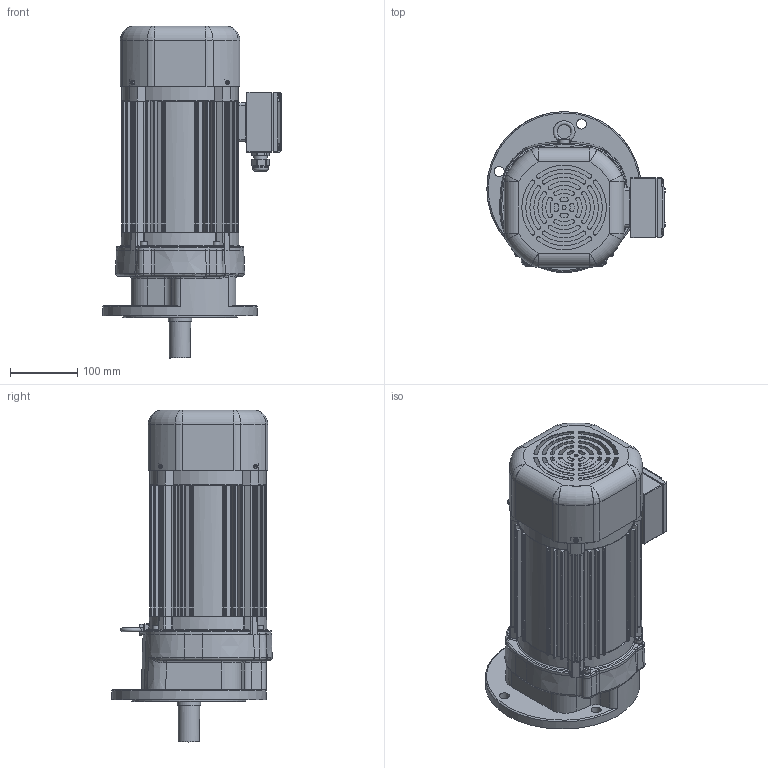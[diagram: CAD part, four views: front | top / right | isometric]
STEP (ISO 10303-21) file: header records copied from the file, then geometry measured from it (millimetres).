
FILE_DESCRIPTION(/* description */ (''),/* implementation_level */ '2;1');
FILE_NAME(/* name */ 'Z:\동력 3D 파일\PMK135_1.5kW_Brake_3D.stp',/* time_stamp */ '2021-11-30T17:46:45+09:00',/* author */ ('jaebok'),/* organization */ (''),/* preprocessor_version */ 'ST-DEVELOPER v18.1',/* originating_system */ 'Autodesk Inventor 2022',/* authorisation */ '');
FILE_SCHEMA (('AUTOMOTIVE_DESIGN { 1 0 10303 214 3 1 1 }'));
Products named in the file (1): 부품36
Bounding box: 265.5 x 239.45 x 494.3 mm (x, y, z)
Volume: 3947940.5 mm3; surface area: 967498.6 mm2
Topology: 1 solids, 31 shells, 2691 faces, 6831 edges, 4106 vertices
Faces by surface type: plane 911, cylinder 755, bspline 548, torus 227, cone 136, sphere 114
Full cylindrical faces by diameter (mm): 3.25 x1, 3.6 x4, 4 x21, 4.917 x3, 5 x19, 6 x13, 6.5 x4, 6.8 x1, 7 x13, 8 x3, 9.5 x4, 10 x5, 12 x1, 12.5 x1, 15 x5, 20 x2, 20.6 x1, 21 x1, 22 x2, 23.6 x1, 25 x1, 32 x2, 35 x2, 36 x1, 40 x1, 42 x1, 50 x1, 60 x1, 62 x1, 70 x1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
Entity records: 102753 total; most frequent: CARTESIAN_POINT 38596, ORIENTED_EDGE 13284, DIRECTION 12177, EDGE_CURVE 6642, AXIS2_PLACEMENT_3D 4875, VERTEX_POINT 4104, EDGE_LOOP 2896, FACE_OUTER_BOUND 2691
